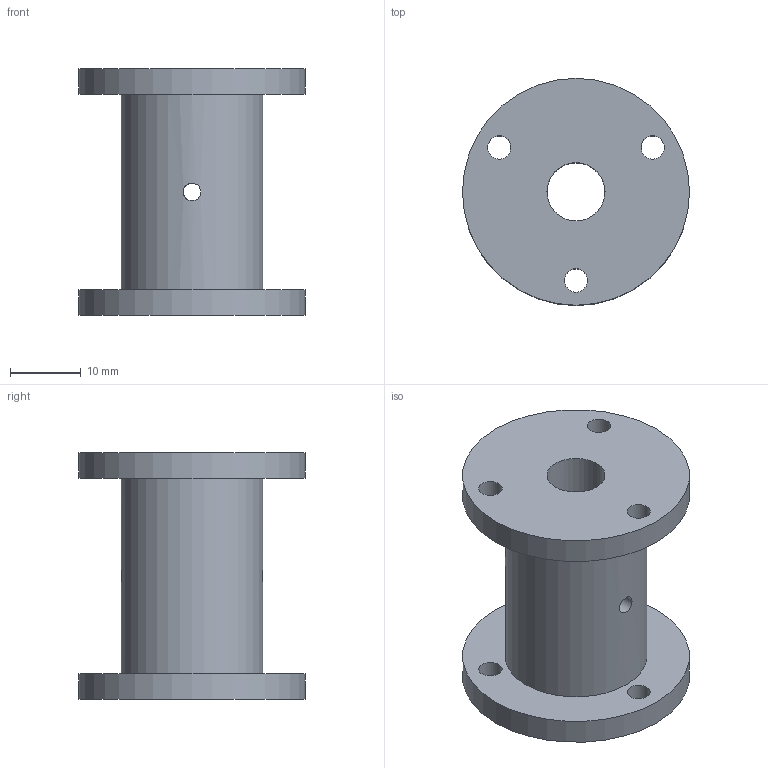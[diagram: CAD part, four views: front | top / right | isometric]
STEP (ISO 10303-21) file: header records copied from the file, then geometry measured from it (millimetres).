
FILE_DESCRIPTION(('Open CASCADE Model'),'2;1');
FILE_NAME('DM_core','2026-11-05T16:12:29',('Author'),('Open CASCADE'), 'Open CASCADE STEP processor 7.9','build123d','Unknown');
FILE_SCHEMA(('AUTOMOTIVE_DESIGN { 1 0 10303 214 1 1 1 1 }'));
Length unit declared in the file: millimetre
Products named in the file (2): DM_core
Assembly tree (1 placements, depth 2):
  DM_core
    DM_core
Bounding box: 32 x 32 x 34.8 mm (x, y, z)
Volume: 12380.6 mm3; surface area: 6032.6 mm2
Topology: 1 solids, 1 shells, 16 faces, 36 edges, 24 vertices
Faces by surface type: cylinder 12, plane 4
Full cylindrical faces by diameter (mm): 2.5 x2, 3.3 x6, 8.2 x1, 20 x1, 32 x2
Entity records: 1550 total; most frequent: CARTESIAN_POINT 708, DIRECTION 152, ORIENTED_EDGE 72, PCURVE 72, DEFINITIONAL_REPRESENTATION 72, LINE 56, VECTOR 56, CIRCLE 40
